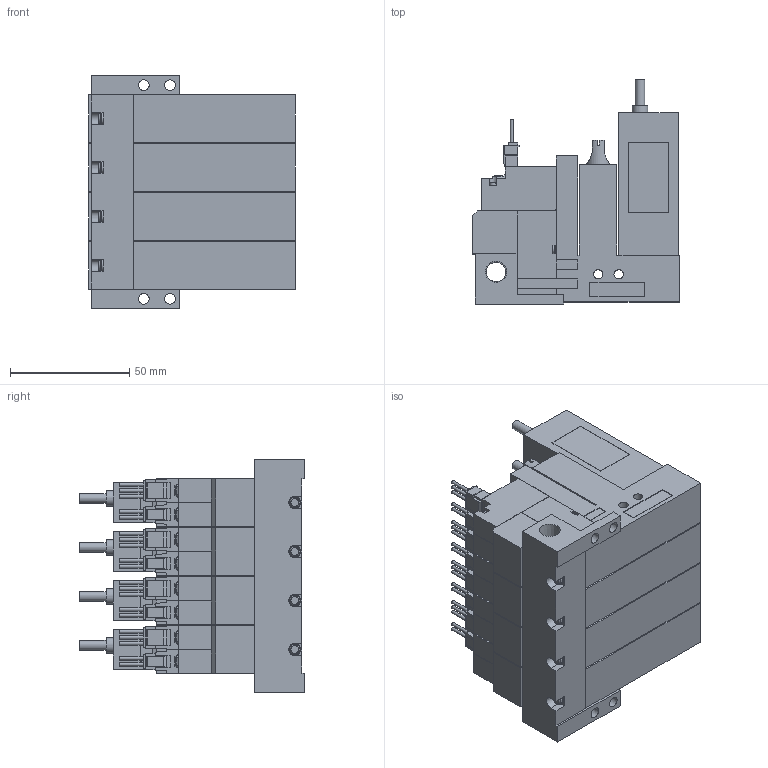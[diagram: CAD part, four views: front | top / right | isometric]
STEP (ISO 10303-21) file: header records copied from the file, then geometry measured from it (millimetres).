
FILE_DESCRIPTION(('STEP AP203'),'1');
FILE_NAME('VG_VGPL5WLR404.stp','2025-02-18T23:40:13',(' '),(' '),'Spatial InterOp 3D',' ',' ');
FILE_SCHEMA(('CONFIG_CONTROL_DESIGN'));
Length unit declared in the file: millimetre
Products named in the file (5): BMC22M※※※※VG_VGPL5WLR404; Solenoid valve W; Pressure sensor VGL; Unit L; Base MR40R
Assembly tree (13 placements, depth 2):
  BMC22M※※※※VG_VGPL5WLR404
    Solenoid valve W  x4
    Pressure sensor VGL  x4
    Unit L  x4
    Base MR40R
Bounding box: 86.6 x 94 x 97.5 mm (x, y, z)
Volume: 403227.7 mm3; surface area: 109393 mm2
Topology: 13 solids, 13 shells, 1461 faces, 3907 edges, 2588 vertices
Faces by surface type: plane 1230, cylinder 189, cone 30, torus 12
Full cylindrical faces by diameter (mm): 1.4 x20, 2.5 x12, 3 x16, 3.5 x16, 3.6 x4, 4 x24, 4.134 x4, 4.5 x4, 5.2 x4, 6 x4, 6.5 x4, 6.6 x4, 8.279 x1
Entity records: 13209 total; most frequent: CARTESIAN_POINT 2478, DIRECTION 2107, ORIENTED_EDGE 2070, EDGE_CURVE 1035, LINE 839, VECTOR 839, VERTEX_POINT 725, AXIS2_PLACEMENT_3D 634
